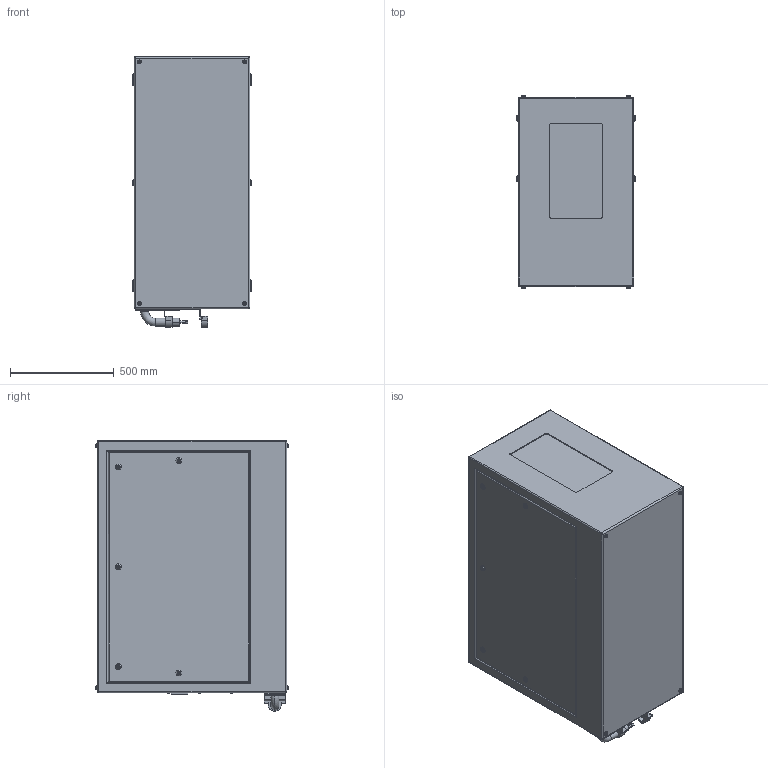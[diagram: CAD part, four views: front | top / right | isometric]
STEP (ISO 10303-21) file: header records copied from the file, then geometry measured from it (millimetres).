
FILE_DESCRIPTION (( 'STEP AP214' ), '1' );
FILE_NAME ('Oasis 59.204.P R02.STEP', '2022-09-12T23:38:05', ( '' ), ( '' ), 'SwSTEP 2.0', 'SolidWorks 2020', '' );
FILE_SCHEMA (( 'AUTOMOTIVE_DESIGN' ));
Length unit declared in the file: inch
Products named in the file (1): Oasis 59.204.P R02
Bounding box: 571.5 x 931.67 x 1308.1 mm (x, y, z)
Volume: 622153442.5 mm3; surface area: 5169447 mm2
Topology: 3 solids, 9 shells, 540 faces, 1233 edges, 782 vertices
Faces by surface type: plane 297, cylinder 185, torus 50, bspline 8
Entity records: 20635 total; most frequent: CARTESIAN_POINT 3068, DIRECTION 2691, ORIENTED_EDGE 2450, EDGE_CURVE 1225, AXIS2_PLACEMENT_3D 965, VERTEX_POINT 782, VECTOR 761, LINE 761
